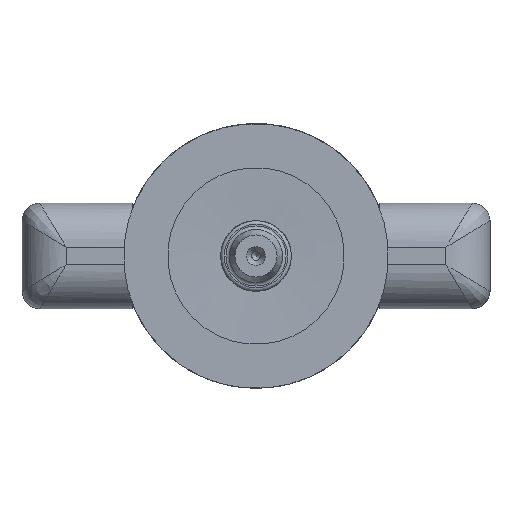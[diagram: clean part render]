
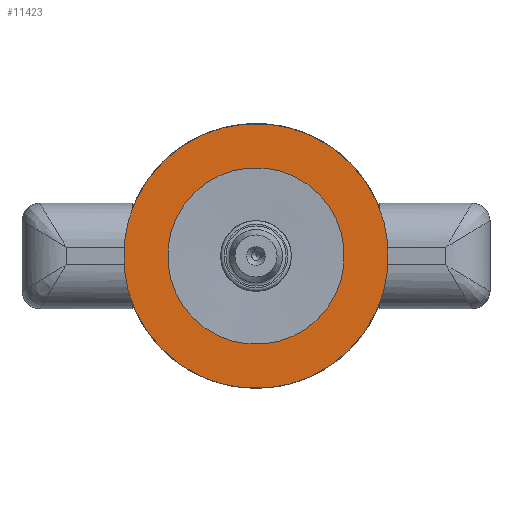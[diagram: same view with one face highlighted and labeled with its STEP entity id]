
A CAD part, front view. The second image highlights one B-rep face of the part: STEP entity #11423.
In plain terms, the highlighted planar face has unit normal (0, -1, 0) as drawn and (0, 0, -1) by its records, which use the part's own axes.
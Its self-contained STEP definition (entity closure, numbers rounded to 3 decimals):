
#2560=PLANE('',#12240);
#2835=FACE_BOUND('',#4047,.T.);
#3322=FACE_OUTER_BOUND('',#4046,.T.);
#4046=EDGE_LOOP('',(#9765));
#4047=EDGE_LOOP('',(#9766));
#4485=CIRCLE('',#12223,15.);
#4492=CIRCLE('',#12237,10.);
#5339=VERTEX_POINT('',#36426);
#5346=VERTEX_POINT('',#36447);
#6879=EDGE_CURVE('',#5339,#5339,#4485,.T.);
#6886=EDGE_CURVE('',#5346,#5346,#4492,.T.);
#9765=ORIENTED_EDGE('',*,*,#6879,.T.);
#9766=ORIENTED_EDGE('',*,*,#6886,.F.);
#11423=ADVANCED_FACE('',(#3322,#2835),#2560,.F.);
#12223=AXIS2_PLACEMENT_3D('',#36427,#13968,#13969);
#12237=AXIS2_PLACEMENT_3D('',#36448,#13996,#13997);
#12240=AXIS2_PLACEMENT_3D('',#36452,#14002,#14003);
#13968=DIRECTION('center_axis',(0.,0.,-1.));
#13969=DIRECTION('ref_axis',(-1.,0.,0.));
#13996=DIRECTION('center_axis',(0.,0.,-1.));
#13997=DIRECTION('ref_axis',(-1.,0.,0.));
#14002=DIRECTION('center_axis',(0.,0.,1.));
#14003=DIRECTION('ref_axis',(1.,0.,0.));
#36426=CARTESIAN_POINT('',(15.,0.,0.));
#36427=CARTESIAN_POINT('Origin',(0.,0.,0.));
#36447=CARTESIAN_POINT('',(10.,0.,0.));
#36448=CARTESIAN_POINT('Origin',(0.,0.,0.));
#36452=CARTESIAN_POINT('Origin',(0.,0.,0.));
